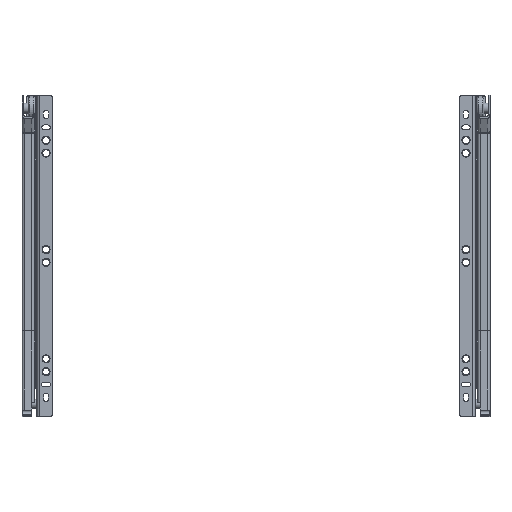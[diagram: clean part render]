
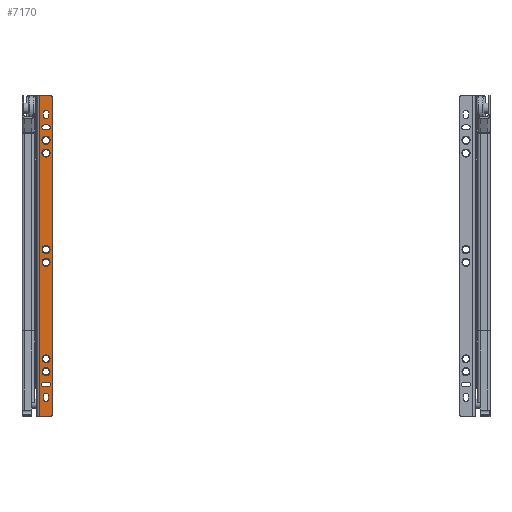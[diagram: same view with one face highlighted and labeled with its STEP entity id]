
A CAD part, front view. The second image highlights one B-rep face of the part: STEP entity #7170.
In plain terms, the highlighted planar face has unit normal (0, -1, 0.002).
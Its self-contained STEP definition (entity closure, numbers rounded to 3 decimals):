
#635=LINE('',#11753,#1145);
#636=LINE('',#11755,#1146);
#637=LINE('',#11757,#1147);
#638=LINE('',#11760,#1148);
#639=LINE('',#11771,#1149);
#640=LINE('',#11774,#1150);
#641=LINE('',#11779,#1151);
#642=LINE('',#11782,#1152);
#643=LINE('',#11787,#1153);
#644=LINE('',#11790,#1154);
#645=LINE('',#11795,#1155);
#646=LINE('',#11798,#1156);
#1145=VECTOR('',#9560,8.);
#1146=VECTOR('',#9561,250.);
#1147=VECTOR('',#9562,8.);
#1148=VECTOR('',#9565,246.);
#1149=VECTOR('',#9574,2.5);
#1150=VECTOR('',#9577,2.5);
#1151=VECTOR('',#9580,2.7);
#1152=VECTOR('',#9583,2.7);
#1153=VECTOR('',#9586,3.);
#1154=VECTOR('',#9589,3.);
#1155=VECTOR('',#9592,3.);
#1156=VECTOR('',#9595,3.);
#1413=PLANE('',#7849);
#1566=FACE_BOUND('',#2444,.T.);
#1567=FACE_BOUND('',#2445,.T.);
#1568=FACE_BOUND('',#2446,.T.);
#1569=FACE_BOUND('',#2447,.T.);
#1570=FACE_BOUND('',#2448,.T.);
#1571=FACE_BOUND('',#2449,.T.);
#1572=FACE_BOUND('',#2450,.T.);
#1573=FACE_BOUND('',#2451,.T.);
#1574=FACE_BOUND('',#2452,.T.);
#1575=FACE_BOUND('',#2453,.T.);
#1934=FACE_OUTER_BOUND('',#2443,.T.);
#2443=EDGE_LOOP('',(#5825,#5826,#5827,#5828,#5829,#5830));
#2444=EDGE_LOOP('',(#5831));
#2445=EDGE_LOOP('',(#5832));
#2446=EDGE_LOOP('',(#5833));
#2447=EDGE_LOOP('',(#5834,#5835,#5836,#5837));
#2448=EDGE_LOOP('',(#5838,#5839,#5840,#5841));
#2449=EDGE_LOOP('',(#5842,#5843,#5844,#5845));
#2450=EDGE_LOOP('',(#5846,#5847,#5848,#5849));
#2451=EDGE_LOOP('',(#5850));
#2452=EDGE_LOOP('',(#5851));
#2453=EDGE_LOOP('',(#5852));
#2916=CIRCLE('',#7848,3.2);
#2917=CIRCLE('',#7850,2.);
#2918=CIRCLE('',#7851,2.);
#2919=CIRCLE('',#7852,3.1);
#2920=CIRCLE('',#7853,3.1);
#2921=CIRCLE('',#7854,3.2);
#2922=CIRCLE('',#7855,2.);
#2923=CIRCLE('',#7856,2.);
#2924=CIRCLE('',#7857,1.9);
#2925=CIRCLE('',#7858,1.9);
#2926=CIRCLE('',#7859,1.9);
#2927=CIRCLE('',#7860,1.9);
#2928=CIRCLE('',#7861,1.9);
#2929=CIRCLE('',#7862,1.9);
#2930=CIRCLE('',#7863,3.1);
#2931=CIRCLE('',#7864,3.1);
#3446=VERTEX_POINT('',#11746);
#3447=VERTEX_POINT('',#11749);
#3448=VERTEX_POINT('',#11750);
#3449=VERTEX_POINT('',#11752);
#3450=VERTEX_POINT('',#11754);
#3451=VERTEX_POINT('',#11756);
#3452=VERTEX_POINT('',#11758);
#3453=VERTEX_POINT('',#11761);
#3454=VERTEX_POINT('',#11763);
#3455=VERTEX_POINT('',#11765);
#3456=VERTEX_POINT('',#11767);
#3457=VERTEX_POINT('',#11768);
#3458=VERTEX_POINT('',#11770);
#3459=VERTEX_POINT('',#11772);
#3460=VERTEX_POINT('',#11775);
#3461=VERTEX_POINT('',#11776);
#3462=VERTEX_POINT('',#11778);
#3463=VERTEX_POINT('',#11780);
#3464=VERTEX_POINT('',#11783);
#3465=VERTEX_POINT('',#11784);
#3466=VERTEX_POINT('',#11786);
#3467=VERTEX_POINT('',#11788);
#3468=VERTEX_POINT('',#11791);
#3469=VERTEX_POINT('',#11792);
#3470=VERTEX_POINT('',#11794);
#3471=VERTEX_POINT('',#11796);
#3472=VERTEX_POINT('',#11799);
#3473=VERTEX_POINT('',#11801);
#4286=EDGE_CURVE('',#3446,#3446,#2916,.T.);
#4287=EDGE_CURVE('',#3447,#3448,#2917,.T.);
#4288=EDGE_CURVE('',#3449,#3447,#635,.T.);
#4289=EDGE_CURVE('',#3450,#3449,#636,.T.);
#4290=EDGE_CURVE('',#3450,#3451,#637,.T.);
#4291=EDGE_CURVE('',#3452,#3451,#2918,.T.);
#4292=EDGE_CURVE('',#3452,#3448,#638,.T.);
#4293=EDGE_CURVE('',#3453,#3453,#2919,.T.);
#4294=EDGE_CURVE('',#3454,#3454,#2920,.T.);
#4295=EDGE_CURVE('',#3455,#3455,#2921,.T.);
#4296=EDGE_CURVE('',#3456,#3457,#2922,.T.);
#4297=EDGE_CURVE('',#3457,#3458,#639,.T.);
#4298=EDGE_CURVE('',#3458,#3459,#2923,.T.);
#4299=EDGE_CURVE('',#3459,#3456,#640,.T.);
#4300=EDGE_CURVE('',#3460,#3461,#2924,.T.);
#4301=EDGE_CURVE('',#3461,#3462,#641,.T.);
#4302=EDGE_CURVE('',#3462,#3463,#2925,.T.);
#4303=EDGE_CURVE('',#3463,#3460,#642,.T.);
#4304=EDGE_CURVE('',#3464,#3465,#2926,.T.);
#4305=EDGE_CURVE('',#3465,#3466,#643,.T.);
#4306=EDGE_CURVE('',#3466,#3467,#2927,.T.);
#4307=EDGE_CURVE('',#3467,#3464,#644,.T.);
#4308=EDGE_CURVE('',#3468,#3469,#2928,.T.);
#4309=EDGE_CURVE('',#3469,#3470,#645,.T.);
#4310=EDGE_CURVE('',#3470,#3471,#2929,.T.);
#4311=EDGE_CURVE('',#3471,#3468,#646,.T.);
#4312=EDGE_CURVE('',#3472,#3472,#2930,.T.);
#4313=EDGE_CURVE('',#3473,#3473,#2931,.T.);
#5825=ORIENTED_EDGE('',*,*,#4287,.F.);
#5826=ORIENTED_EDGE('',*,*,#4288,.F.);
#5827=ORIENTED_EDGE('',*,*,#4289,.F.);
#5828=ORIENTED_EDGE('',*,*,#4290,.T.);
#5829=ORIENTED_EDGE('',*,*,#4291,.F.);
#5830=ORIENTED_EDGE('',*,*,#4292,.T.);
#5831=ORIENTED_EDGE('',*,*,#4293,.F.);
#5832=ORIENTED_EDGE('',*,*,#4294,.F.);
#5833=ORIENTED_EDGE('',*,*,#4295,.F.);
#5834=ORIENTED_EDGE('',*,*,#4296,.T.);
#5835=ORIENTED_EDGE('',*,*,#4297,.T.);
#5836=ORIENTED_EDGE('',*,*,#4298,.T.);
#5837=ORIENTED_EDGE('',*,*,#4299,.T.);
#5838=ORIENTED_EDGE('',*,*,#4300,.T.);
#5839=ORIENTED_EDGE('',*,*,#4301,.T.);
#5840=ORIENTED_EDGE('',*,*,#4302,.T.);
#5841=ORIENTED_EDGE('',*,*,#4303,.T.);
#5842=ORIENTED_EDGE('',*,*,#4304,.T.);
#5843=ORIENTED_EDGE('',*,*,#4305,.T.);
#5844=ORIENTED_EDGE('',*,*,#4306,.T.);
#5845=ORIENTED_EDGE('',*,*,#4307,.T.);
#5846=ORIENTED_EDGE('',*,*,#4308,.T.);
#5847=ORIENTED_EDGE('',*,*,#4309,.T.);
#5848=ORIENTED_EDGE('',*,*,#4310,.T.);
#5849=ORIENTED_EDGE('',*,*,#4311,.T.);
#5850=ORIENTED_EDGE('',*,*,#4312,.F.);
#5851=ORIENTED_EDGE('',*,*,#4313,.F.);
#5852=ORIENTED_EDGE('',*,*,#4286,.F.);
#7170=ADVANCED_FACE('',(#1934,#1566,#1567,#1568,#1569,#1570,#1571,#1572,
#1573,#1574,#1575),#1413,.T.);
#7848=AXIS2_PLACEMENT_3D('',#11747,#9554,#9555);
#7849=AXIS2_PLACEMENT_3D('',#11748,#9556,#9557);
#7850=AXIS2_PLACEMENT_3D('',#11751,#9558,#9559);
#7851=AXIS2_PLACEMENT_3D('',#11759,#9563,#9564);
#7852=AXIS2_PLACEMENT_3D('',#11762,#9566,#9567);
#7853=AXIS2_PLACEMENT_3D('',#11764,#9568,#9569);
#7854=AXIS2_PLACEMENT_3D('',#11766,#9570,#9571);
#7855=AXIS2_PLACEMENT_3D('',#11769,#9572,#9573);
#7856=AXIS2_PLACEMENT_3D('',#11773,#9575,#9576);
#7857=AXIS2_PLACEMENT_3D('',#11777,#9578,#9579);
#7858=AXIS2_PLACEMENT_3D('',#11781,#9581,#9582);
#7859=AXIS2_PLACEMENT_3D('',#11785,#9584,#9585);
#7860=AXIS2_PLACEMENT_3D('',#11789,#9587,#9588);
#7861=AXIS2_PLACEMENT_3D('',#11793,#9590,#9591);
#7862=AXIS2_PLACEMENT_3D('',#11797,#9593,#9594);
#7863=AXIS2_PLACEMENT_3D('',#11800,#9596,#9597);
#7864=AXIS2_PLACEMENT_3D('',#11802,#9598,#9599);
#9554=DIRECTION('center_axis',(0.,-1.,0.));
#9555=DIRECTION('ref_axis',(-1.,0.,0.));
#9556=DIRECTION('center_axis',(0.,-1.,0.));
#9557=DIRECTION('ref_axis',(1.,0.,0.));
#9558=DIRECTION('center_axis',(0.,1.,0.));
#9559=DIRECTION('ref_axis',(-0.707,0.,0.707));
#9560=DIRECTION('',(0.,0.,1.));
#9561=DIRECTION('',(-1.,0.,0.));
#9562=DIRECTION('',(0.,0.,1.));
#9563=DIRECTION('center_axis',(0.,1.,0.));
#9564=DIRECTION('ref_axis',(0.707,0.,0.707));
#9565=DIRECTION('',(-1.,0.,0.));
#9566=DIRECTION('center_axis',(0.,-1.,0.));
#9567=DIRECTION('ref_axis',(-1.,0.,0.));
#9568=DIRECTION('center_axis',(0.,-1.,0.));
#9569=DIRECTION('ref_axis',(-1.,0.,0.));
#9570=DIRECTION('center_axis',(0.,-1.,0.));
#9571=DIRECTION('ref_axis',(-1.,0.,0.));
#9572=DIRECTION('center_axis',(0.,1.,0.));
#9573=DIRECTION('ref_axis',(0.,0.,1.));
#9574=DIRECTION('',(-1.,0.,0.));
#9575=DIRECTION('center_axis',(0.,1.,0.));
#9576=DIRECTION('ref_axis',(0.,0.,-1.));
#9577=DIRECTION('',(1.,0.,0.));
#9578=DIRECTION('center_axis',(0.,1.,0.));
#9579=DIRECTION('ref_axis',(1.,0.,0.));
#9580=DIRECTION('',(0.,0.,1.));
#9581=DIRECTION('center_axis',(0.,1.,0.));
#9582=DIRECTION('ref_axis',(-1.,0.,0.));
#9583=DIRECTION('',(0.,0.,-1.));
#9584=DIRECTION('center_axis',(0.,1.,0.));
#9585=DIRECTION('ref_axis',(1.,0.,0.));
#9586=DIRECTION('',(0.,0.,1.));
#9587=DIRECTION('center_axis',(0.,1.,0.));
#9588=DIRECTION('ref_axis',(-1.,0.,0.));
#9589=DIRECTION('',(0.,0.,-1.));
#9590=DIRECTION('center_axis',(0.,1.,0.));
#9591=DIRECTION('ref_axis',(0.,0.,1.));
#9592=DIRECTION('',(-1.,0.,0.));
#9593=DIRECTION('center_axis',(0.,1.,0.));
#9594=DIRECTION('ref_axis',(0.,0.,-1.));
#9595=DIRECTION('',(1.,0.,0.));
#9596=DIRECTION('center_axis',(0.,-1.,0.));
#9597=DIRECTION('ref_axis',(-1.,0.,0.));
#9598=DIRECTION('center_axis',(0.,-1.,0.));
#9599=DIRECTION('ref_axis',(-1.,0.,0.));
#11746=CARTESIAN_POINT('',(-191.8,-12.,7.1));
#11747=CARTESIAN_POINT('Origin',(-195.,-12.,7.1));
#11748=CARTESIAN_POINT('Origin',(-240.,-12.,0.));
#11749=CARTESIAN_POINT('',(-240.,-12.,10.));
#11750=CARTESIAN_POINT('',(-238.,-12.,12.));
#11751=CARTESIAN_POINT('Origin',(-238.,-12.,10.));
#11752=CARTESIAN_POINT('',(-240.,-12.,2.));
#11753=CARTESIAN_POINT('',(-240.,-12.,0.));
#11754=CARTESIAN_POINT('',(10.,-12.,2.));
#11755=CARTESIAN_POINT('',(-177.176,-12.,2.));
#11756=CARTESIAN_POINT('',(10.,-12.,10.));
#11757=CARTESIAN_POINT('',(10.,-12.,0.));
#11758=CARTESIAN_POINT('',(8.,-12.,12.));
#11759=CARTESIAN_POINT('Origin',(8.,-12.,10.));
#11760=CARTESIAN_POINT('',(10.,-12.,12.));
#11761=CARTESIAN_POINT('',(-31.9,-12.,7.1));
#11762=CARTESIAN_POINT('Origin',(-35.,-12.,7.1));
#11763=CARTESIAN_POINT('',(-106.9,-12.,7.1));
#11764=CARTESIAN_POINT('Origin',(-110.,-12.,7.1));
#11765=CARTESIAN_POINT('',(-201.8,-12.,7.1));
#11766=CARTESIAN_POINT('Origin',(-205.,-12.,7.1));
#11767=CARTESIAN_POINT('',(-223.75,-12.,9.1));
#11768=CARTESIAN_POINT('',(-223.75,-12.,5.1));
#11769=CARTESIAN_POINT('Origin',(-223.75,-12.,7.1));
#11770=CARTESIAN_POINT('',(-226.25,-12.,5.1));
#11771=CARTESIAN_POINT('',(-233.125,-12.,5.1));
#11772=CARTESIAN_POINT('',(-226.25,-12.,9.1));
#11773=CARTESIAN_POINT('Origin',(-226.25,-12.,7.1));
#11774=CARTESIAN_POINT('',(-231.875,-12.,9.1));
#11775=CARTESIAN_POINT('',(-213.1,-12.,5.75));
#11776=CARTESIAN_POINT('',(-216.9,-12.,5.75));
#11777=CARTESIAN_POINT('Origin',(-215.,-12.,5.75));
#11778=CARTESIAN_POINT('',(-216.9,-12.,8.45));
#11779=CARTESIAN_POINT('',(-216.9,-12.,4.225));
#11780=CARTESIAN_POINT('',(-213.1,-12.,8.45));
#11781=CARTESIAN_POINT('Origin',(-215.,-12.,8.45));
#11782=CARTESIAN_POINT('',(-213.1,-12.,2.875));
#11783=CARTESIAN_POINT('',(-13.1,-12.,5.6));
#11784=CARTESIAN_POINT('',(-16.9,-12.,5.6));
#11785=CARTESIAN_POINT('Origin',(-15.,-12.,5.6));
#11786=CARTESIAN_POINT('',(-16.9,-12.,8.6));
#11787=CARTESIAN_POINT('',(-16.9,-12.,4.3));
#11788=CARTESIAN_POINT('',(-13.1,-12.,8.6));
#11789=CARTESIAN_POINT('Origin',(-15.,-12.,8.6));
#11790=CARTESIAN_POINT('',(-13.1,-12.,2.8));
#11791=CARTESIAN_POINT('',(-3.5,-12.,9.));
#11792=CARTESIAN_POINT('',(-3.5,-12.,5.2));
#11793=CARTESIAN_POINT('Origin',(-3.5,-12.,7.1));
#11794=CARTESIAN_POINT('',(-6.5,-12.,5.2));
#11795=CARTESIAN_POINT('',(-123.25,-12.,5.2));
#11796=CARTESIAN_POINT('',(-6.5,-12.,9.));
#11797=CARTESIAN_POINT('Origin',(-6.5,-12.,7.1));
#11798=CARTESIAN_POINT('',(-121.75,-12.,9.));
#11799=CARTESIAN_POINT('',(-116.9,-12.,7.1));
#11800=CARTESIAN_POINT('Origin',(-120.,-12.,7.1));
#11801=CARTESIAN_POINT('',(-21.9,-12.,7.1));
#11802=CARTESIAN_POINT('Origin',(-25.,-12.,7.1));
